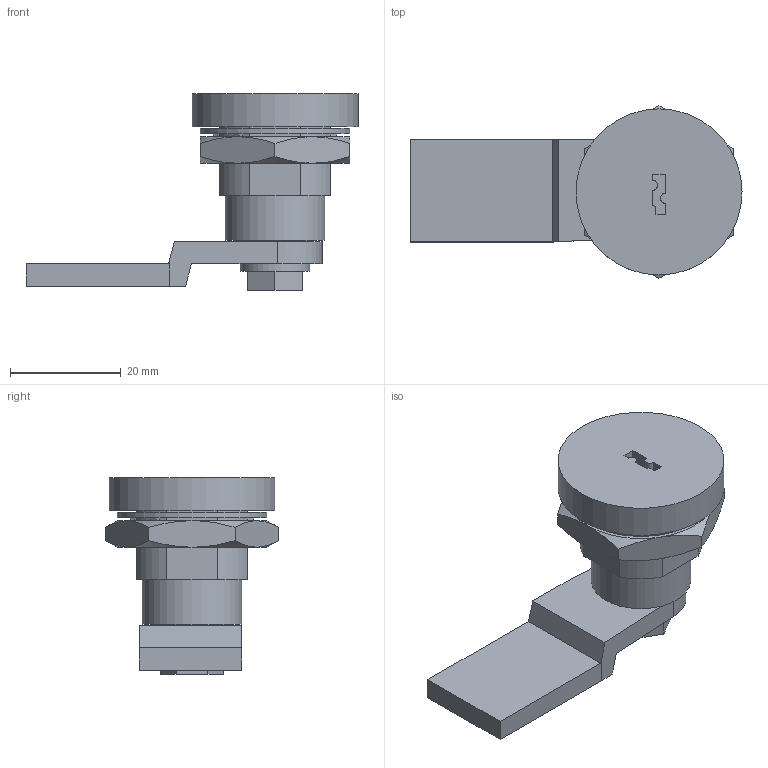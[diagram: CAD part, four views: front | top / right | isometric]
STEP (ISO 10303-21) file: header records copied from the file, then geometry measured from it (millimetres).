
FILE_DESCRIPTION( ( 'STEP AP214' ), '1' );
FILE_NAME( 'p:/temp/worker_117/temp/exporttempdir_4040_122_8iiSf/format_0/ALL508(0).stp', '2021-03-15T13:07:12', ( 'License CC BY-ND 4.0' ), ( 'CADENAS' ), ' ', 'PARTsolutions', ' ' );
FILE_SCHEMA( ( 'AUTOMOTIVE_DESIGN { 1 0 10303 214 1 1 1 1 }' ) );
Length unit declared in the file: millimetre
Products named in the file (1): _ALL508(0)
Bounding box: 60 x 31.18 x 35.6 mm (x, y, z)
Volume: 16377.2 mm3; surface area: 7481.6 mm2
Topology: 1 solids, 1 shells, 109 faces, 276 edges, 180 vertices
Faces by surface type: plane 67, cylinder 22, cone 20
Full cylindrical faces by diameter (mm): 12.5 x1, 18 x1, 27 x1, 30 x1
Entity records: 4326 total; most frequent: CARTESIAN_POINT 810, ORIENTED_EDGE 544, DIRECTION 524, EDGE_CURVE 272, VERTEX_POINT 180, LINE 176, VECTOR 176, AXIS2_PLACEMENT_3D 174
